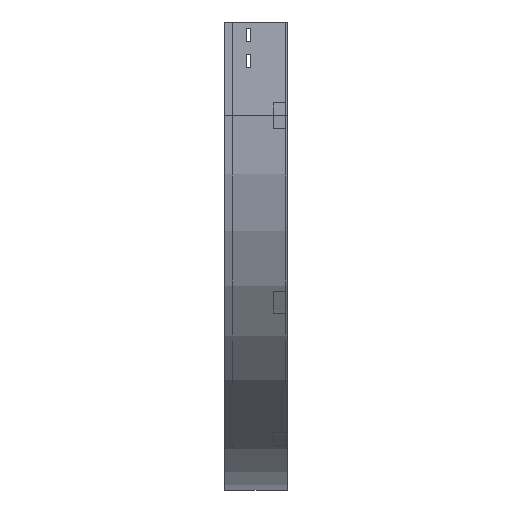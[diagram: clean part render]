
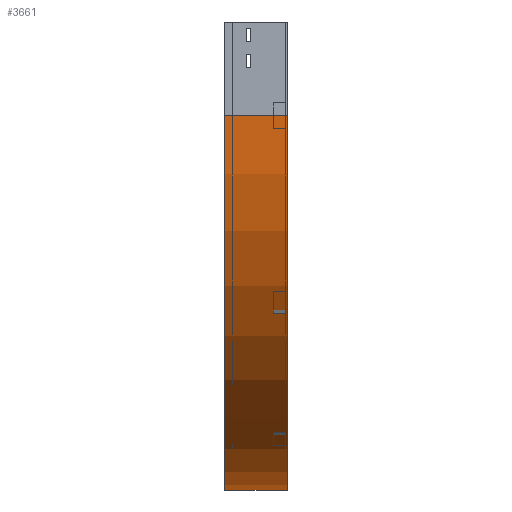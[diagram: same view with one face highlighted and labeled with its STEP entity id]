
A CAD part, left-side view. The second image highlights one B-rep face of the part: STEP entity #3661.
In plain terms, the highlighted cylindrical face has radius 600 mm (diameter 1200 mm), a partial arc.
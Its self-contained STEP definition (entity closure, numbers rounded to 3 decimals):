
#58 = DIRECTION ( 'NONE',  ( 0., -1., 0. ) ) ;
#504 = EDGE_CURVE ( 'NONE', #1620, #1353, #3741, .T. ) ;
#564 = EDGE_CURVE ( 'NONE', #3078, #757, #812, .T. ) ;
#614 = CARTESIAN_POINT ( 'NONE',  ( 600., 100., -150. ) ) ;
#757 = VERTEX_POINT ( 'NONE', #1630 ) ;
#812 = CIRCLE ( 'NONE', #2373, 600. ) ;
#816 = DIRECTION ( 'NONE',  ( -1., 0., 0. ) ) ;
#861 = CARTESIAN_POINT ( 'NONE',  ( 600., 0., -750. ) ) ;
#1054 = CARTESIAN_POINT ( 'NONE',  ( 600., 0., -150. ) ) ;
#1086 = ORIENTED_EDGE ( 'NONE', *, *, #564, .T. ) ;
#1353 = VERTEX_POINT ( 'NONE', #3496 ) ;
#1485 = EDGE_CURVE ( 'NONE', #3078, #1620, #3351, .T. ) ;
#1509 = DIRECTION ( 'NONE',  ( 0., -1., 0. ) ) ;
#1540 = CARTESIAN_POINT ( 'NONE',  ( 0., 0., -150. ) ) ;
#1620 = VERTEX_POINT ( 'NONE', #2518 ) ;
#1630 = CARTESIAN_POINT ( 'NONE',  ( 600., 100., -750. ) ) ;
#1870 = AXIS2_PLACEMENT_3D ( 'NONE', #3507, #2037, #816 ) ;
#1937 = ORIENTED_EDGE ( 'NONE', *, *, #2602, .T. ) ;
#2037 = DIRECTION ( 'NONE',  ( 0., -1., 0. ) ) ;
#2226 = ORIENTED_EDGE ( 'NONE', *, *, #504, .F. ) ;
#2299 = FACE_OUTER_BOUND ( 'NONE', #3776, .T. ) ;
#2373 = AXIS2_PLACEMENT_3D ( 'NONE', #614, #2434, #3002 ) ;
#2434 = DIRECTION ( 'NONE',  ( 0., -1., 0. ) ) ;
#2518 = CARTESIAN_POINT ( 'NONE',  ( 0., 0., -150. ) ) ;
#2546 = AXIS2_PLACEMENT_3D ( 'NONE', #1054, #2612, #3500 ) ;
#2602 = EDGE_CURVE ( 'NONE', #757, #1353, #2954, .T. ) ;
#2612 = DIRECTION ( 'NONE',  ( 0., -1., 0. ) ) ;
#2645 = VECTOR ( 'NONE', #58, 1000. ) ;
#2691 = ORIENTED_EDGE ( 'NONE', *, *, #1485, .F. ) ;
#2788 = VECTOR ( 'NONE', #1509, 1000. ) ;
#2954 = LINE ( 'NONE', #861, #2788 ) ;
#3002 = DIRECTION ( 'NONE',  ( -1., 0., 0. ) ) ;
#3078 = VERTEX_POINT ( 'NONE', #3312 ) ;
#3312 = CARTESIAN_POINT ( 'NONE',  ( 0., 100., -150. ) ) ;
#3351 = LINE ( 'NONE', #1540, #2645 ) ;
#3496 = CARTESIAN_POINT ( 'NONE',  ( 600., 0., -750. ) ) ;
#3500 = DIRECTION ( 'NONE',  ( 0., 0., -1. ) ) ;
#3507 = CARTESIAN_POINT ( 'NONE',  ( 600., 0., -150. ) ) ;
#3661 = ADVANCED_FACE ( 'NONE', ( #2299 ), #3752, .T. ) ;
#3741 = CIRCLE ( 'NONE', #1870, 600. ) ;
#3752 = CYLINDRICAL_SURFACE ( 'NONE', #2546, 600. ) ;
#3776 = EDGE_LOOP ( 'NONE', ( #2226, #2691, #1086, #1937 ) ) ;
